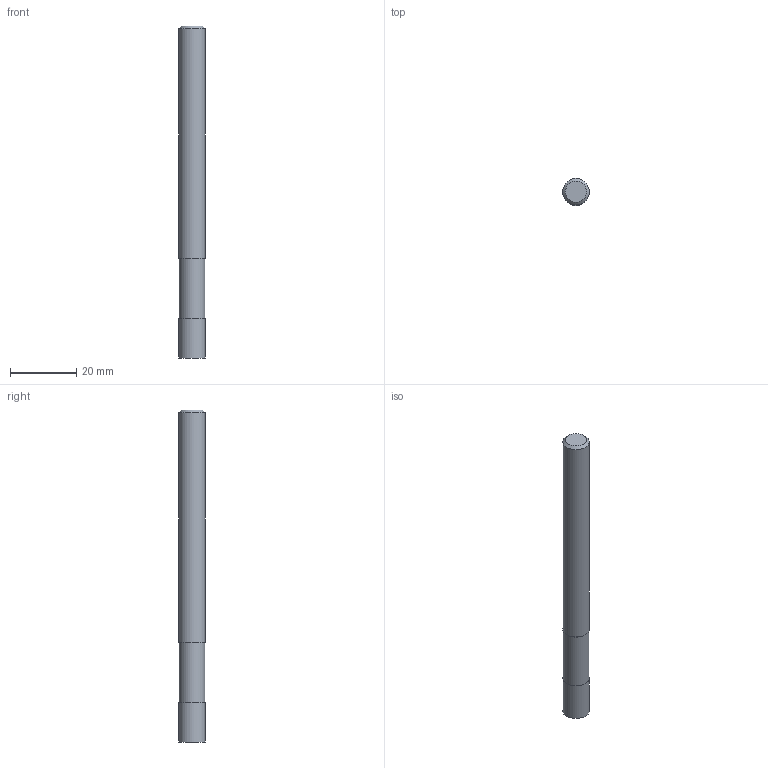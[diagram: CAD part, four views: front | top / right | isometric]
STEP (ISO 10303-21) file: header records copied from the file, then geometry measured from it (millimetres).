
FILE_DESCRIPTION((''),'2;1');
FILE_NAME('C:\Users\nsx150\AppData\Local\Temp\Mastercam 2021\17T8Q8S9EB\TEMP.step','2021-04-21T16:16:41',(''),(''),'STEP Write','Mastercam 2021 ... CNC Software, Inc.','');
FILE_SCHEMA(('AUTOMOTIVE_DESIGN'));
Length unit declared in the file: millimetre
Products named in the file (1): None
Bounding box: 8 x 8 x 100 mm (x, y, z)
Volume: 4974.4 mm3; surface area: 2690.4 mm2
Topology: 2 solids, 2 shells, 9 faces, 11 edges, 7 vertices
Faces by surface type: plane 5, cylinder 3, cone 1
Full cylindrical faces by diameter (mm): 7.8 x1, 8 x2
Entity records: 211 total; most frequent: DIRECTION 36, CARTESIAN_POINT 25, AXIS2_PLACEMENT_3D 18, ORIENTED_EDGE 14, EDGE_LOOP 14, STYLED_ITEM 12, ADVANCED_FACE 9, FACE_BOUND 8
